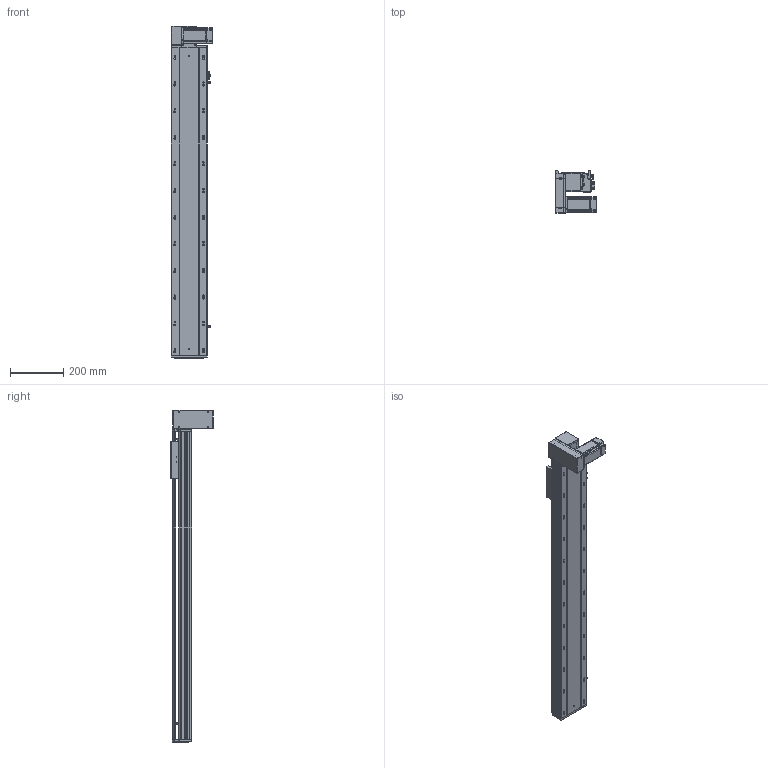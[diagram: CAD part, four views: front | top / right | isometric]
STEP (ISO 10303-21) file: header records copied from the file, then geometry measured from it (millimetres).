
FILE_DESCRIPTION (( 'STEP AP203' ), '1' );
FILE_NAME ('RY140-T-300-DL.SLDASM_900.step', '2021-03-01T06:06:16', ( '盈信电脑' ), ( '东莞市道滘镇水果街19号' ), 'SwSTEP 2.0', 'SolidWorks 2012', '' );
FILE_SCHEMA (( 'CONFIG_CONTROL_DESIGN' ));
Length unit declared in the file: millimetre
Products named in the file (18): RY120-T肮祭湍揤踡輸1; RY120外置感应片(140共用）; RY120-T肮祭湍揤踡輸2; RY140-T翋肮謫裔啣; 滅袉蝶18-10; RY140-T萇儂欶; RY140-T-300-DL.SLDASM_900; 15; RY120-T主同步轮轴承压盖; RY120-T蹟翐M4; 侂狟400W侜督萇儂; RY140-T翋肮祭謫盓傅釱; RY140-T萇儂假蚾啣; 覜茼ん672; RY140綴裔啣; RY140肮祭謫臏賑輸; RY140-T-300-DL倰第奻裔啣_900; RY140-T-300-DL倰第菁釱_900
Assembly tree (23 placements, depth 3):
  RY140-T-300-DL.SLDASM_900
    RY140-T-300-DL倰第菁釱_900
    RY140肮祭謫臏賑輸
    RY140-T-300-DL倰第奻裔啣_900
    RY140綴裔啣
    覜茼ん672  x3
    RY120外置感应片(140共用）
    RY120-T肮祭湍揤踡輸2
    RY120-T肮祭湍揤踡輸1
    RY140-T翋肮祭謫盓傅釱
    RY140-T萇儂假蚾啣
    侂狟400W侜督萇儂
      15
    RY120-T主同步轮轴承压盖
    RY120-T蹟翐M4  x4
    RY140-T萇儂欶
    滅袉蝶18-10  x2
    RY140-T翋肮謫裔啣
Bounding box: 157 x 158.5 x 1246 mm (x, y, z)
Volume: 3749240.1 mm3; surface area: 1428167 mm2
Topology: 22 solids, 22 shells, 2750 faces, 7602 edges, 4888 vertices
Faces by surface type: plane 1389, cylinder 1047, cone 214, bspline 100
Entity records: 87964 total; most frequent: CARTESIAN_POINT 21651, ORIENTED_EDGE 13700, DIRECTION 12928, EDGE_CURVE 6850, VERTEX_POINT 4487, AXIS2_PLACEMENT_3D 4313, VECTOR 4302, LINE 4302
